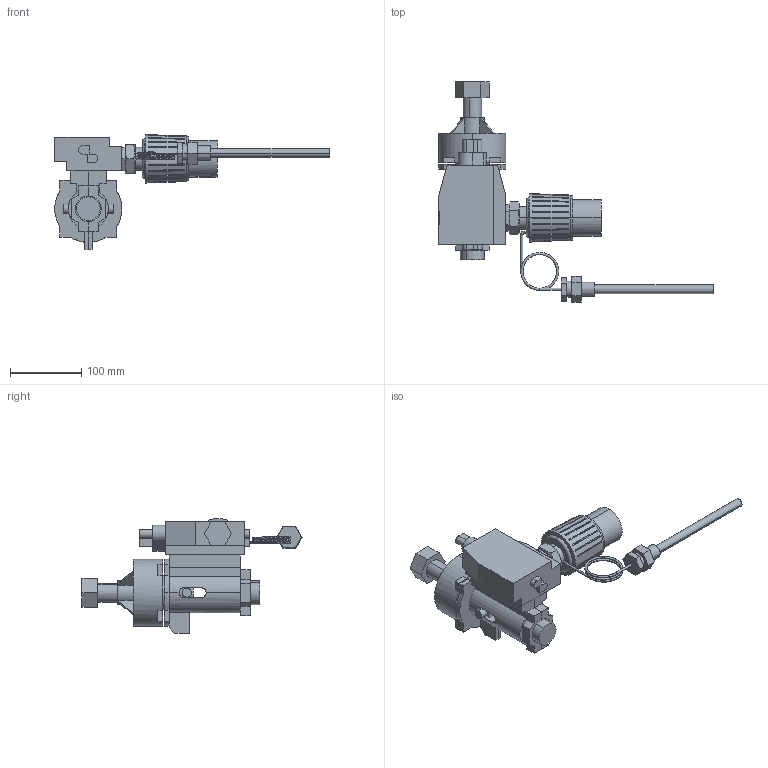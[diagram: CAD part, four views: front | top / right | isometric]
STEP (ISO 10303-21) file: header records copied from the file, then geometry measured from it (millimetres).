
FILE_DESCRIPTION (( 'STEP AP203' ), '1' );
FILE_NAME ('Typ2212.STEP', '2010-03-15T09:36:09', ( '' ), ( '' ), 'SwSTEP 2.0', 'SolidWorks 2006303', '' );
FILE_SCHEMA (( 'CONFIG_CONTROL_DESIGN' ));
Length unit declared in the file: millimetre
Products named in the file (1): Typ2212
Bounding box: 384.5 x 308.4 x 161 mm (x, y, z)
Surface area: 190711.9 mm2 (no closed solid volume)
Topology: 0 solids, 11 shells, 354 faces, 982 edges, 657 vertices
Faces by surface type: plane 244, cylinder 68, cone 33, torus 6, bspline 3
Entity records: 12858 total; most frequent: CARTESIAN_POINT 3652, DIRECTION 1917, ORIENTED_EDGE 1788, EDGE_CURVE 982, LINE 669, VECTOR 669, VERTEX_POINT 657, AXIS2_PLACEMENT_3D 624
